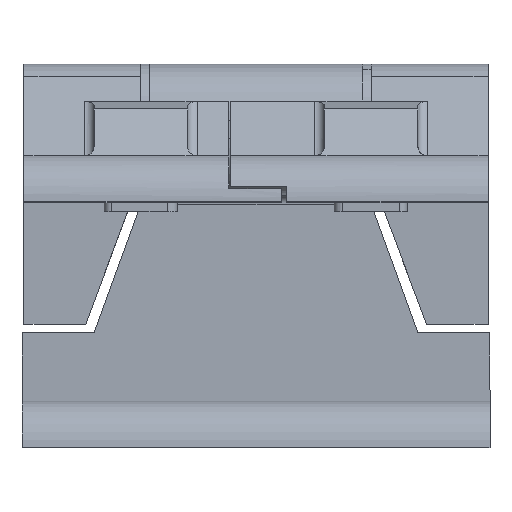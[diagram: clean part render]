
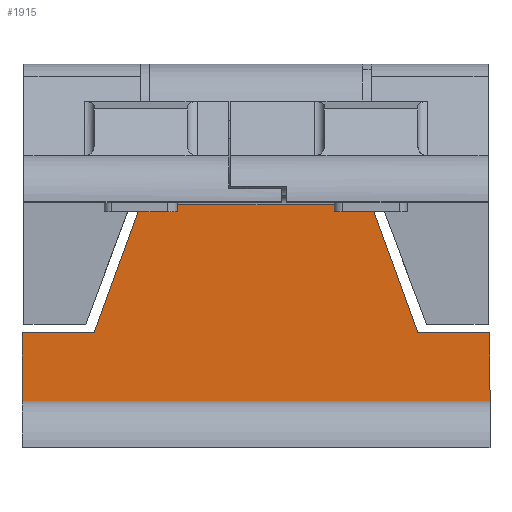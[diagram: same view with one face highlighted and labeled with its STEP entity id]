
A CAD part, left-side view. The second image highlights one B-rep face of the part: STEP entity #1915.
In plain terms, the highlighted planar face has unit normal (-1, 0, 0) as drawn and (1, 0, 0) by its records, which use the part's own axes.
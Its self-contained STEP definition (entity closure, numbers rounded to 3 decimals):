
#1765 = VERTEX_POINT ( 'NONE', #5733 ) ;
#1767 = EDGE_CURVE ( 'NONE', #1776, #1765, #5788, .T. ) ;
#1774 = EDGE_CURVE ( 'NONE', #1775, #1776, #5773, .T. ) ;
#1775 = VERTEX_POINT ( 'NONE', #5769 ) ;
#1776 = VERTEX_POINT ( 'NONE', #5768 ) ;
#1793 = VERTEX_POINT ( 'NONE', #5838 ) ;
#1795 = EDGE_CURVE ( 'NONE', #1796, #1793, #5837, .T. ) ;
#1796 = VERTEX_POINT ( 'NONE', #5833 ) ;
#1813 = EDGE_CURVE ( 'NONE', #1765, #1814, #5871, .T. ) ;
#1814 = VERTEX_POINT ( 'NONE', #5867 ) ;
#1815 = VERTEX_POINT ( 'NONE', #5866 ) ;
#1839 = EDGE_CURVE ( 'NONE', #1815, #1775, #5902, .T. ) ;
#1898 = ORIENTED_EDGE ( 'NONE', *, *, #1795, .T. ) ;
#1899 = ORIENTED_EDGE ( 'NONE', *, *, #1900, .T. ) ;
#1900 = EDGE_CURVE ( 'NONE', #1793, #1901, #5992, .T. ) ;
#1901 = VERTEX_POINT ( 'NONE', #5988 ) ;
#1902 = ORIENTED_EDGE ( 'NONE', *, *, #1903, .F. ) ;
#1903 = EDGE_CURVE ( 'NONE', #1815, #1901, #5987, .T. ) ;
#1904 = ORIENTED_EDGE ( 'NONE', *, *, #1839, .T. ) ;
#1915 = ADVANCED_FACE ( 'NONE', ( #6038 ), #6037, .T. ) ;
#1916 = EDGE_LOOP ( 'NONE', ( #1917, #1918, #1919, #1920, #1898, #1899, #1902, #1904 ) ) ;
#1917 = ORIENTED_EDGE ( 'NONE', *, *, #1774, .T. ) ;
#1918 = ORIENTED_EDGE ( 'NONE', *, *, #1767, .T. ) ;
#1919 = ORIENTED_EDGE ( 'NONE', *, *, #1813, .T. ) ;
#1920 = ORIENTED_EDGE ( 'NONE', *, *, #1921, .F. ) ;
#1921 = EDGE_CURVE ( 'NONE', #1796, #1814, #6032, .T. ) ;
#5733 = CARTESIAN_POINT ( 'NONE',  ( -3., -17.296, -22.7 ) ) ;
#5768 = CARTESIAN_POINT ( 'NONE',  ( -3., -12.31, -9. ) ) ;
#5769 = CARTESIAN_POINT ( 'NONE',  ( -3., 12.31, -9. ) ) ;
#5770 = DIRECTION ( 'NONE',  ( 0., -1., 0. ) ) ;
#5771 = VECTOR ( 'NONE', #5770, 1000. ) ;
#5772 = CARTESIAN_POINT ( 'NONE',  ( -3., -25., -9. ) ) ;
#5773 = LINE ( 'NONE', #5772, #5771 ) ;
#5785 = DIRECTION ( 'NONE',  ( 0., -0.342, -0.94 ) ) ;
#5786 = VECTOR ( 'NONE', #5785, 1000. ) ;
#5787 = CARTESIAN_POINT ( 'NONE',  ( -3., -12.31, -9. ) ) ;
#5788 = LINE ( 'NONE', #5787, #5786 ) ;
#5833 = CARTESIAN_POINT ( 'NONE',  ( -3., -25., -30.8 ) ) ;
#5834 = DIRECTION ( 'NONE',  ( 0., 1., 0. ) ) ;
#5835 = VECTOR ( 'NONE', #5834, 1000. ) ;
#5836 = CARTESIAN_POINT ( 'NONE',  ( -3., -25., -30.8 ) ) ;
#5837 = LINE ( 'NONE', #5836, #5835 ) ;
#5838 = CARTESIAN_POINT ( 'NONE',  ( -3., 25., -30.8 ) ) ;
#5866 = CARTESIAN_POINT ( 'NONE',  ( -3., 17.296, -22.7 ) ) ;
#5867 = CARTESIAN_POINT ( 'NONE',  ( -3., -25., -22.7 ) ) ;
#5868 = DIRECTION ( 'NONE',  ( 0., -1., 0. ) ) ;
#5869 = VECTOR ( 'NONE', #5868, 1000. ) ;
#5870 = CARTESIAN_POINT ( 'NONE',  ( -3., -25., -22.7 ) ) ;
#5871 = LINE ( 'NONE', #5870, #5869 ) ;
#5899 = DIRECTION ( 'NONE',  ( 0., -0.342, 0.94 ) ) ;
#5900 = VECTOR ( 'NONE', #5899, 1000. ) ;
#5901 = CARTESIAN_POINT ( 'NONE',  ( -3., 17.296, -22.7 ) ) ;
#5902 = LINE ( 'NONE', #5901, #5900 ) ;
#5984 = DIRECTION ( 'NONE',  ( 0., 1., 0. ) ) ;
#5985 = VECTOR ( 'NONE', #5984, 1000. ) ;
#5986 = CARTESIAN_POINT ( 'NONE',  ( -3., 26.017, -22.7 ) ) ;
#5987 = LINE ( 'NONE', #5986, #5985 ) ;
#5988 = CARTESIAN_POINT ( 'NONE',  ( -3., 25., -22.7 ) ) ;
#5989 = DIRECTION ( 'NONE',  ( 0., 0., 1. ) ) ;
#5990 = VECTOR ( 'NONE', #5989, 1000. ) ;
#5991 = CARTESIAN_POINT ( 'NONE',  ( -3., 25., -2. ) ) ;
#5992 = LINE ( 'NONE', #5991, #5990 ) ;
#6029 = DIRECTION ( 'NONE',  ( 0., 0., 1. ) ) ;
#6030 = VECTOR ( 'NONE', #6029, 1000. ) ;
#6031 = CARTESIAN_POINT ( 'NONE',  ( -3., -25., -2. ) ) ;
#6032 = LINE ( 'NONE', #6031, #6030 ) ;
#6033 = DIRECTION ( 'NONE',  ( 0., 0., -1. ) ) ;
#6034 = DIRECTION ( 'NONE',  ( 1., 0., 0. ) ) ;
#6035 = CARTESIAN_POINT ( 'NONE',  ( -3., -25., -9. ) ) ;
#6036 = AXIS2_PLACEMENT_3D ( 'NONE', #6035, #6034, #6033 ) ;
#6037 = PLANE ( 'NONE',  #6036 ) ;
#6038 = FACE_OUTER_BOUND ( 'NONE', #1916, .T. ) ;
